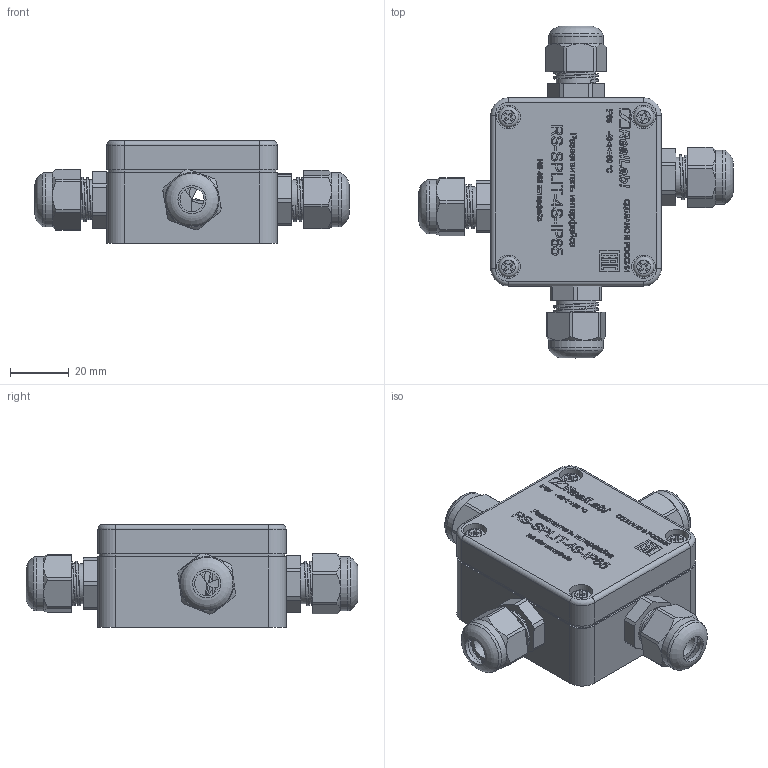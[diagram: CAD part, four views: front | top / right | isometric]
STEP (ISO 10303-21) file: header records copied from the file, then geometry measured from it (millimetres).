
FILE_DESCRIPTION(('STEP AP214'), '1');
FILE_NAME('ÍÏÊÃ.426411.007-002 RS-SPLIT-4S-IP65 ÏÅÐÅÄÅËÀÍÍÛÉ â ñòåïêóêó', '', ('UNSPECIFIED'), ('UNSPECIFIED'), 'C3D Converter', 'C3D Toolkit', '');
FILE_SCHEMA(('AUTOMOTIVE_DESIGN { 1 0 10303 214 3 1 1}'));
Length unit declared in the file: millimetre
Bounding box: 107 x 113 x 35.01 mm (x, y, z)
Volume: 63958.4 mm3; surface area: 58522.2 mm2
Topology: 6 solids, 8 shells, 3098 faces, 8419 edges, 5554 vertices
Faces by surface type: plane 1390, extrusion 1168, cylinder 324, cone 144, bspline 48, torus 24
Full cylindrical faces by diameter (mm): 1.2 x24, 2.5 x2, 4 x4, 4.2 x2, 7 x4, 8 x8, 8.2 x4, 9.6 x4, 10 x4, 11 x4, 11.6 x8, 13.6 x24, 16 x8, 16.2 x4, 18.5 x4, 19.7 x4
Entity records: 229573 total; most frequent: CARTESIAN_POINT 131978, ORIENTED_EDGE 16526, DIRECTION 11355, EDGE_CURVE 8263, VERTEX_POINT 5546, VECTOR 5545, LINE 4377, B_SPLINE_CURVE_WITH_KNOTS 4000
